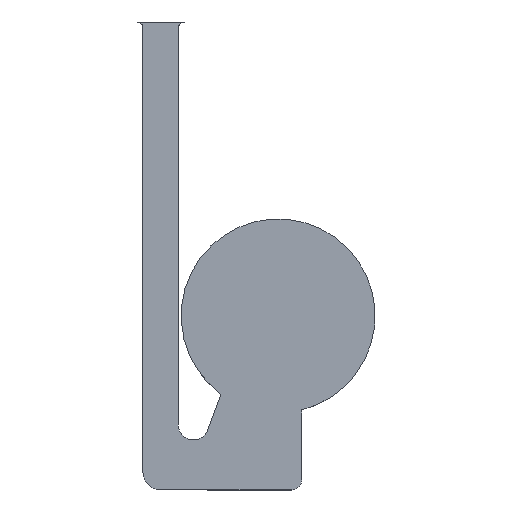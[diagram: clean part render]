
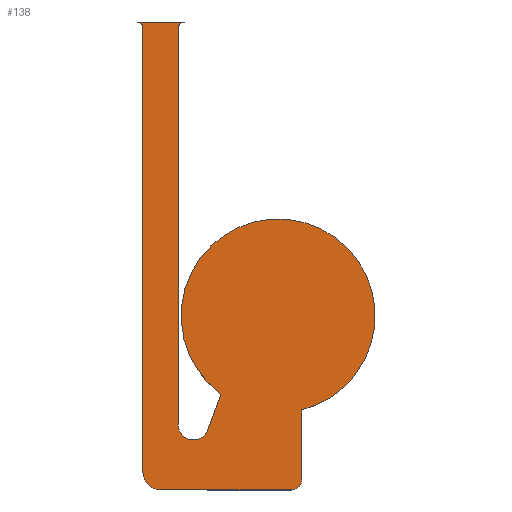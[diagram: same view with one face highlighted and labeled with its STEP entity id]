
A CAD part, top view. The second image highlights one B-rep face of the part: STEP entity #138.
In plain terms, the highlighted planar face has unit normal (0, 0, 1).
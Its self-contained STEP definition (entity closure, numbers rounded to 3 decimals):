
#138 = ADVANCED_FACE( '', ( #354 ), #355, .F. );
#354 = FACE_OUTER_BOUND( '', #678, .T. );
#355 = PLANE( '', #679 );
#678 = EDGE_LOOP( '', ( #1044, #1045, #1046, #1047, #1048, #1049, #1050, #1051, #1052, #1053, #1054, #1055 ) );
#679 = AXIS2_PLACEMENT_3D( '', #1056, #1057, #1058 );
#1044 = ORIENTED_EDGE( '', *, *, #1717, .F. );
#1045 = ORIENTED_EDGE( '', *, *, #1718, .F. );
#1046 = ORIENTED_EDGE( '', *, *, #1719, .F. );
#1047 = ORIENTED_EDGE( '', *, *, #1720, .T. );
#1048 = ORIENTED_EDGE( '', *, *, #1721, .F. );
#1049 = ORIENTED_EDGE( '', *, *, #1722, .T. );
#1050 = ORIENTED_EDGE( '', *, *, #1723, .T. );
#1051 = ORIENTED_EDGE( '', *, *, #1724, .F. );
#1052 = ORIENTED_EDGE( '', *, *, #1670, .T. );
#1053 = ORIENTED_EDGE( '', *, *, #1725, .F. );
#1054 = ORIENTED_EDGE( '', *, *, #1726, .F. );
#1055 = ORIENTED_EDGE( '', *, *, #1727, .F. );
#1056 = CARTESIAN_POINT( '', ( -250., 250., 0. ) );
#1057 = DIRECTION( '', ( 0., 0., -1. ) );
#1058 = DIRECTION( '', ( 0., 1., 0. ) );
#1670 = EDGE_CURVE( '', #1940, #1941, #1942, .F. );
#1717 = EDGE_CURVE( '', #2021, #2022, #2023, .F. );
#1718 = EDGE_CURVE( '', #2024, #2021, #2025, .T. );
#1719 = EDGE_CURVE( '', #2026, #2024, #2027, .F. );
#1720 = EDGE_CURVE( '', #2026, #2028, #2029, .F. );
#1721 = EDGE_CURVE( '', #2030, #2028, #2031, .T. );
#1722 = EDGE_CURVE( '', #2030, #2032, #2033, .T. );
#1723 = EDGE_CURVE( '', #2032, #2034, #2035, .F. );
#1724 = EDGE_CURVE( '', #1940, #2034, #2036, .F. );
#1725 = EDGE_CURVE( '', #2037, #1941, #2038, .F. );
#1726 = EDGE_CURVE( '', #2039, #2037, #2040, .F. );
#1727 = EDGE_CURVE( '', #2022, #2039, #2041, .T. );
#1940 = VERTEX_POINT( '', #2330 );
#1941 = VERTEX_POINT( '', #2331 );
#1942 = CIRCLE( '', #2332, 82.5 );
#2021 = VERTEX_POINT( '', #2432 );
#2022 = VERTEX_POINT( '', #2433 );
#2023 = CIRCLE( '', #2434, 5. );
#2024 = VERTEX_POINT( '', #2435 );
#2025 = LINE( '', #2436, #2437 );
#2026 = VERTEX_POINT( '', #2438 );
#2027 = CIRCLE( '', #2439, 5. );
#2028 = VERTEX_POINT( '', #2440 );
#2029 = LINE( '', #2441, #2442 );
#2030 = VERTEX_POINT( '', #2443 );
#2031 = CIRCLE( '', #2444, 15. );
#2032 = VERTEX_POINT( '', #2445 );
#2033 = LINE( '', #2446, #2447 );
#2034 = VERTEX_POINT( '', #2448 );
#2035 = CIRCLE( '', #2449, 8.853 );
#2036 = LINE( '', #2450, #2451 );
#2037 = VERTEX_POINT( '', #2452 );
#2038 = LINE( '', #2453, #2454 );
#2039 = VERTEX_POINT( '', #2455 );
#2040 = CIRCLE( '', #2456, 13. );
#2041 = LINE( '', #2457, #2458 );
#2330 = CARTESIAN_POINT( '', ( 20., -80.039, 0. ) );
#2331 = CARTESIAN_POINT( '', ( -48.711, -66.585, 0. ) );
#2332 = AXIS2_PLACEMENT_3D( '', #2868, #2869, #2870 );
#2432 = CARTESIAN_POINT( '', ( -80., 250., 0. ) );
#2433 = CARTESIAN_POINT( '', ( -85., 245., 0. ) );
#2434 = AXIS2_PLACEMENT_3D( '', #2940, #2941, #2942 );
#2435 = CARTESIAN_POINT( '', ( -120., 250., 0. ) );
#2436 = CARTESIAN_POINT( '', ( -250., 250., 0. ) );
#2437 = VECTOR( '', #2943, 1000. );
#2438 = CARTESIAN_POINT( '', ( -115., 245., 0. ) );
#2439 = AXIS2_PLACEMENT_3D( '', #2944, #2945, #2946 );
#2440 = CARTESIAN_POINT( '', ( -115., -133., 0. ) );
#2441 = CARTESIAN_POINT( '', ( -115., 260., 0. ) );
#2442 = VECTOR( '', #2947, 1000. );
#2443 = CARTESIAN_POINT( '', ( -100., -148., 0. ) );
#2444 = AXIS2_PLACEMENT_3D( '', #2948, #2949, #2950 );
#2445 = CARTESIAN_POINT( '', ( 11.147, -148., 0. ) );
#2446 = CARTESIAN_POINT( '', ( -60.404, -148., 0. ) );
#2447 = VECTOR( '', #2951, 1000. );
#2448 = CARTESIAN_POINT( '', ( 20., -139.147, 0. ) );
#2449 = AXIS2_PLACEMENT_3D( '', #2952, #2953, #2954 );
#2450 = CARTESIAN_POINT( '', ( 20., -250., 0. ) );
#2451 = VECTOR( '', #2955, 1000. );
#2452 = CARTESIAN_POINT( '', ( -59.784, -97.008, 0. ) );
#2453 = CARTESIAN_POINT( '', ( -66.868, -116.471, 0. ) );
#2454 = VECTOR( '', #2956, 1000. );
#2455 = CARTESIAN_POINT( '', ( -85., -92.561, 0. ) );
#2456 = AXIS2_PLACEMENT_3D( '', #2957, #2958, #2959 );
#2457 = CARTESIAN_POINT( '', ( -85., -250., 0. ) );
#2458 = VECTOR( '', #2960, 1000. );
#2868 = CARTESIAN_POINT( '', ( 0., 0., 0. ) );
#2869 = DIRECTION( '', ( 0., 0., -1. ) );
#2870 = DIRECTION( '', ( -1., 0., 0. ) );
#2940 = CARTESIAN_POINT( '', ( -80., 245., 0. ) );
#2941 = DIRECTION( '', ( 0., 0., -1. ) );
#2942 = DIRECTION( '', ( -1., 0., 0. ) );
#2943 = DIRECTION( '', ( 1., 0., 0. ) );
#2944 = CARTESIAN_POINT( '', ( -120., 245., 0. ) );
#2945 = DIRECTION( '', ( 0., 0., -1. ) );
#2946 = DIRECTION( '', ( -1., 0., 0. ) );
#2947 = DIRECTION( '', ( 0., 1., 0. ) );
#2948 = CARTESIAN_POINT( '', ( -100., -133., 0. ) );
#2949 = DIRECTION( '', ( 0., 0., -1. ) );
#2950 = DIRECTION( '', ( -1., 0., 0. ) );
#2951 = DIRECTION( '', ( 1., 0., 0. ) );
#2952 = CARTESIAN_POINT( '', ( 11.147, -139.147, 0. ) );
#2953 = DIRECTION( '', ( 0., 0., -1. ) );
#2954 = DIRECTION( '', ( -1., 0., 0. ) );
#2955 = DIRECTION( '', ( 0., 1., 0. ) );
#2956 = DIRECTION( '', ( -0.342, -0.94, 0. ) );
#2957 = CARTESIAN_POINT( '', ( -72., -92.561, 0. ) );
#2958 = DIRECTION( '', ( 0., 0., -1. ) );
#2959 = DIRECTION( '', ( -1., 0., 0. ) );
#2960 = DIRECTION( '', ( 0., -1., 0. ) );
